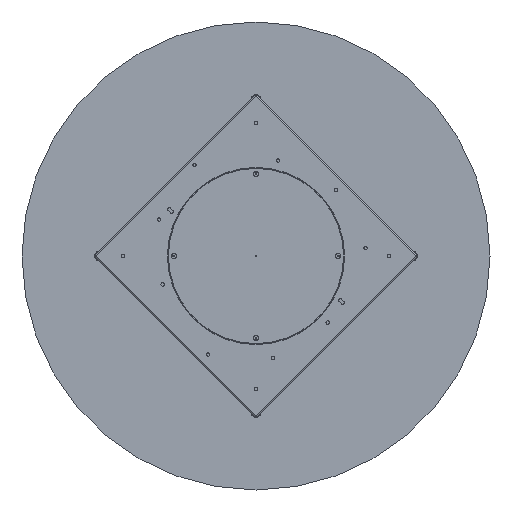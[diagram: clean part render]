
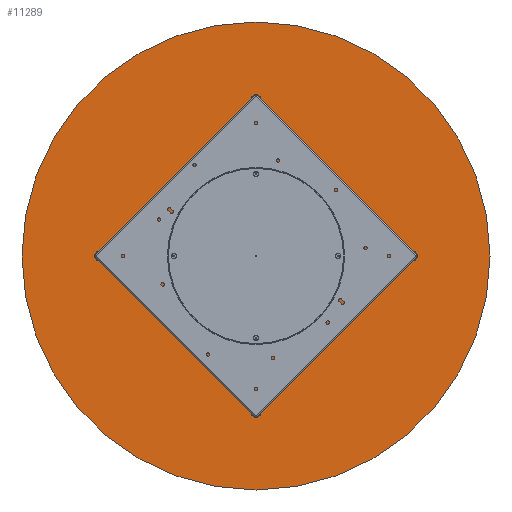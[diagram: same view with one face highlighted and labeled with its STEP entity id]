
A CAD part, front view. The second image highlights one B-rep face of the part: STEP entity #11289.
In plain terms, the highlighted planar face has unit normal (0, -1, 0).
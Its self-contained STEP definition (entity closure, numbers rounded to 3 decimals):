
#596 = EDGE_CURVE ( 'NONE', #11181, #1029, #7449, .T. ) ;
#965 = DIRECTION ( 'NONE',  ( 0., -1., 0. ) ) ;
#1029 = VERTEX_POINT ( 'NONE', #10946 ) ;
#1435 = DIRECTION ( 'NONE',  ( 0., 0., -1. ) ) ;
#2135 = PLANE ( 'NONE',  #10289 ) ;
#3204 = CARTESIAN_POINT ( 'NONE',  ( 0., 0., 0. ) ) ;
#3996 = CIRCLE ( 'NONE', #5255, 700. ) ;
#4144 = DIRECTION ( 'NONE',  ( 0., -1., 0. ) ) ;
#5255 = AXIS2_PLACEMENT_3D ( 'NONE', #3204, #4144, #9008 ) ;
#6034 = CARTESIAN_POINT ( 'NONE',  ( 0., 0., 700. ) ) ;
#6122 = CARTESIAN_POINT ( 'NONE',  ( 0., 0., 0. ) ) ;
#6905 = CARTESIAN_POINT ( 'NONE',  ( 0., 0., 0. ) ) ;
#7449 = CIRCLE ( 'NONE', #13932, 700. ) ;
#8448 = EDGE_CURVE ( 'NONE', #1029, #11181, #3996, .T. ) ;
#9008 = DIRECTION ( 'NONE',  ( 0., 0., -1. ) ) ;
#10038 = ORIENTED_EDGE ( 'NONE', *, *, #596, .T. ) ;
#10289 = AXIS2_PLACEMENT_3D ( 'NONE', #6905, #965, #10589 ) ;
#10589 = DIRECTION ( 'NONE',  ( 0., 0., -1. ) ) ;
#10662 = FACE_OUTER_BOUND ( 'NONE', #11364, .T. ) ;
#10904 = DIRECTION ( 'NONE',  ( 0., -1., 0. ) ) ;
#10946 = CARTESIAN_POINT ( 'NONE',  ( 0., 0., -700. ) ) ;
#11181 = VERTEX_POINT ( 'NONE', #6034 ) ;
#11289 = ADVANCED_FACE ( 'NONE', ( #10662 ), #2135, .T. ) ;
#11364 = EDGE_LOOP ( 'NONE', ( #12286, #10038 ) ) ;
#12286 = ORIENTED_EDGE ( 'NONE', *, *, #8448, .T. ) ;
#13932 = AXIS2_PLACEMENT_3D ( 'NONE', #6122, #10904, #1435 ) ;
